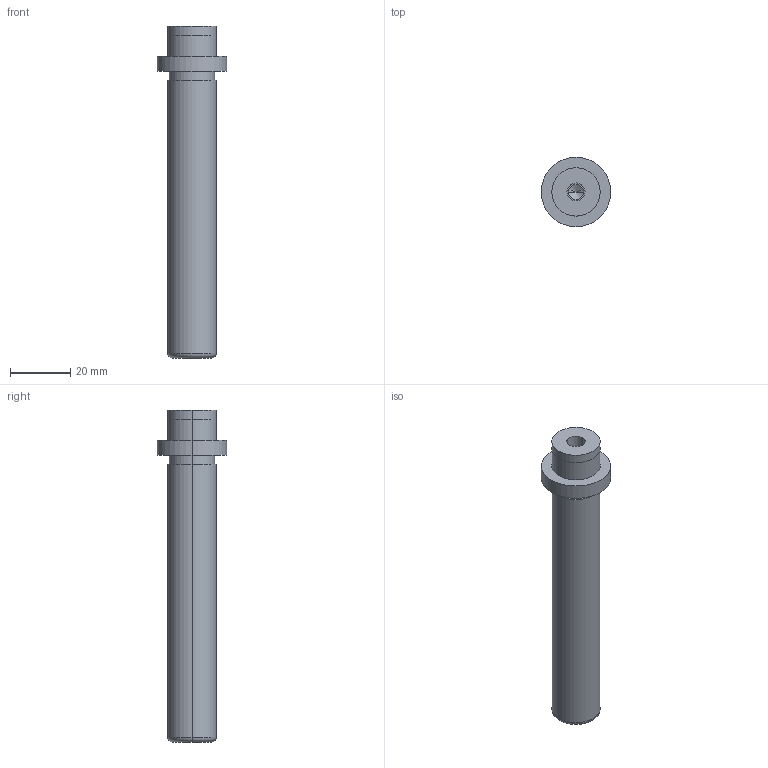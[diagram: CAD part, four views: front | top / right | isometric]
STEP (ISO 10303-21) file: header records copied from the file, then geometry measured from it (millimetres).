
FILE_DESCRIPTION(/* description */ (''),/* implementation_level */ '2;1');
FILE_NAME(/* name */ '3d_sgpw16-100_05285_r00.stp',/* time_stamp */ '2011-01-10T14:11:05+09:00',/* author */ ('MISUMI'),/* organization */ (''),/* preprocessor_version */ 'ST-DEVELOPER v11',/* originating_system */ 'UGS - NX 5.0',/* authorisation */ '');
FILE_SCHEMA (('CONFIG_CONTROL_DESIGN'));
Length unit declared in the file: millimetre
Products named in the file (1): 3d_sgpw16-100_05285_r00
Bounding box: 23 x 23 x 110 mm (x, y, z)
Volume: 22288.3 mm3; surface area: 7016.2 mm2
Topology: 1 solids, 1 shells, 31 faces, 64 edges, 38 vertices
Faces by surface type: cylinder 18, plane 7, cone 4, torus 2
Entity records: 890 total; most frequent: DIRECTION 162, CARTESIAN_POINT 130, ORIENTED_EDGE 120, AXIS2_PLACEMENT_3D 70, EDGE_CURVE 60, EDGE_LOOP 38, CIRCLE 38, VERTEX_POINT 38
